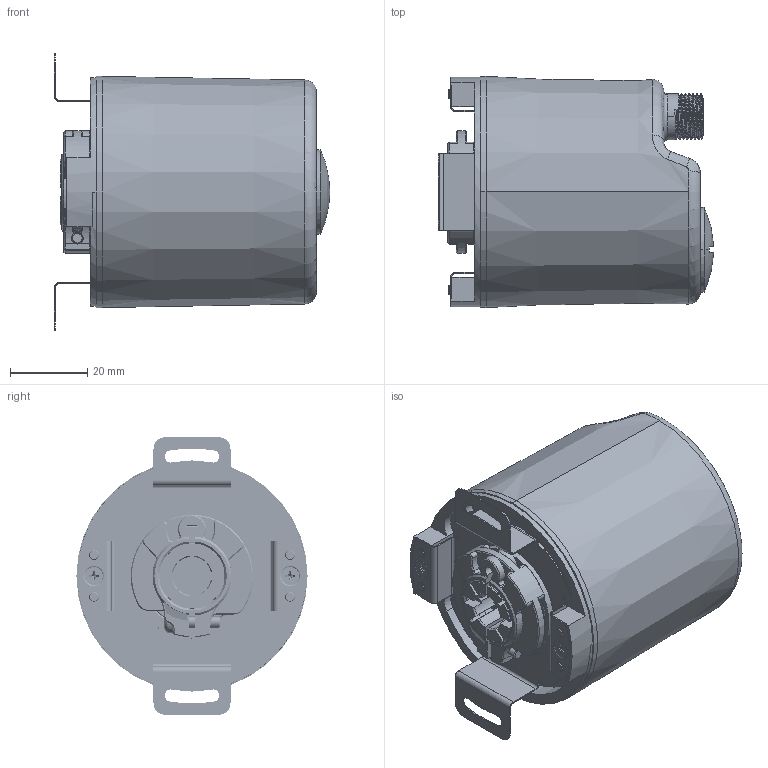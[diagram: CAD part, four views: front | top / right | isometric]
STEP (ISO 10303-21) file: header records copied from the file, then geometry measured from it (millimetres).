
FILE_DESCRIPTION((''),'2;1');
FILE_NAME('XFM60X-BH-ETHERNET_ASM','2011-11-30T',('frankcl'),(''),'PRO/ENGINEER BY PARAMETRIC TECHNOLOGY CORPORATION, 2010160','PRO/ENGINEER BY PARAMETRIC TECHNOLOGY CORPORATION, 2010160','');
FILE_SCHEMA(('AUTOMOTIVE_DESIGN_CC2 { 1 2 10303 214 -1 1 5 2 }'));
Length unit declared in the file: millimetre
Products named in the file (1): XFM60X-BH-ETHERNET_ASM
Bounding box: 71.49 x 60 x 72 mm (x, y, z)
Surface area: 57433 mm2 (no closed solid volume)
Topology: 0 solids, 43 shells, 4368 faces, 11577 edges, 7244 vertices
Faces by surface type: plane 1827, cylinder 1166, torus 408, cone 299, revolution 264, bspline 196, extrusion 168, sphere 40
Entity records: 213102 total; most frequent: CARTESIAN_POINT 73664, ORIENTED_EDGE 22926, DIRECTION 21576, EDGE_CURVE 11463, AXIS2_PLACEMENT_3D 7717, VERTEX_POINT 7282, VECTOR 5878, LINE 5710
